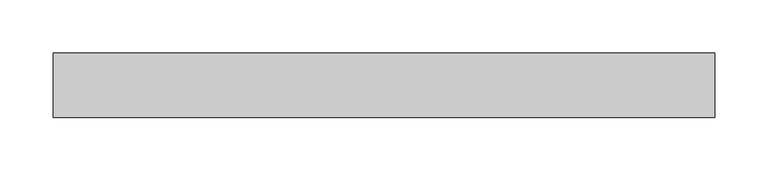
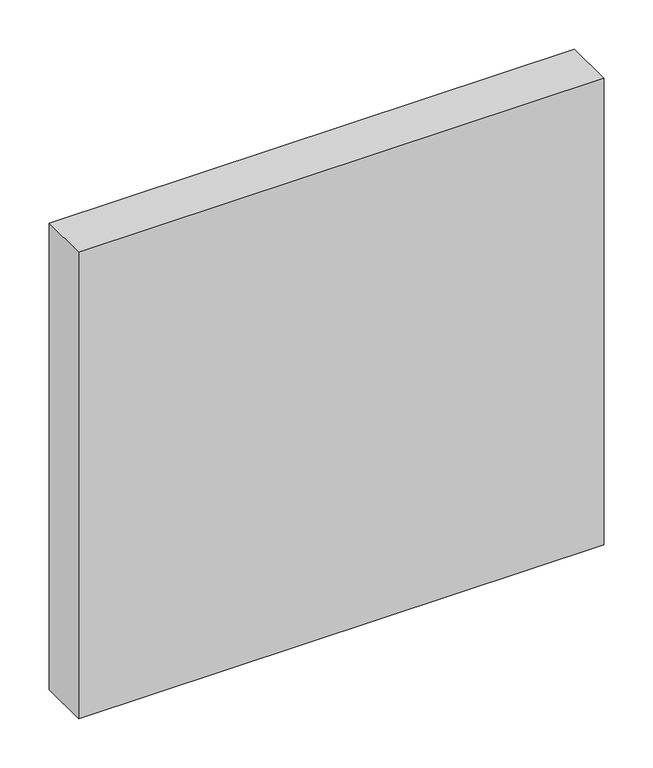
"""IFC4 building model written with IfcOpenShell, lengths in millimetres: plate geometry, Системная панель : Алюкобонд серый."""

from ifc_helpers import new_model, si_unit, origin, origin_with_axes, place, context, project, spatial, polyline, outline, extrude, source, transform, mapped, element, save


def plate_dfe31dd8(model_context):
    return source(origin(), model_context, "Body", "SweptSolid", [
        extrude(outline(polyline([(309.0, -10.5), (-309.0, -10.5), (-309.0, 49.5), (309.0, 49.5), (309.0, -10.5)])), origin_with_axes(), (0.0, 0.0, 1.0), 580.0),
    ])


if __name__ == "__main__":
    model = new_model("IFC4")
    model_context = context("Model", 3, world=origin())
    ifc_project = project(units=[si_unit("LENGTHUNIT", "METRE", prefix="MILLI")], contexts=[model_context])
    site = spatial("IfcSite", under=ifc_project)
    building = spatial("IfcBuilding", under=site)
    placement = place(None, origin())
    plate_shape = plate_dfe31dd8(model_context)
    element("IfcPlate", 1, ObjectType="Системная панель : Алюкобонд серый", at=placement, inside=building, context=model_context, shape_type="MappedRepresentation", body=[
        mapped(plate_shape, transform((0.0, 0.0, 0.0), x_axis=(1.0, 0.0, 0.0), y_axis=(0.0, 1.0, 0.0), z_axis=(0.0, 0.0, 1.0))),
    ])
    save(model, "model.ifc")
